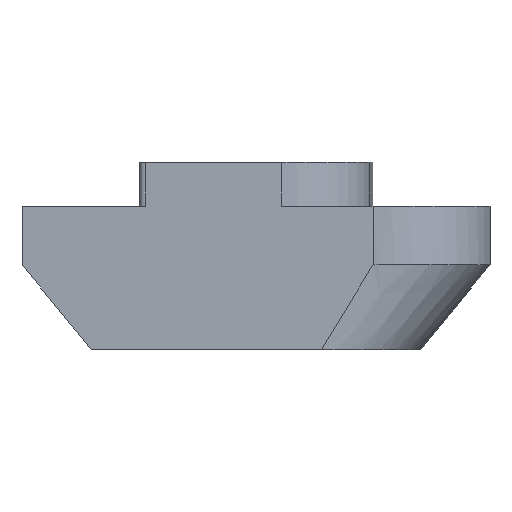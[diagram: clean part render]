
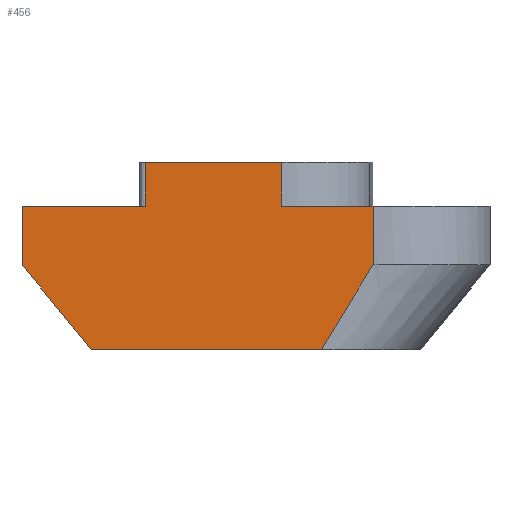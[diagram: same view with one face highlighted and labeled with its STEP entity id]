
A CAD part, front view. The second image highlights one B-rep face of the part: STEP entity #456.
In plain terms, the highlighted planar face has unit normal (0, -1, 0).
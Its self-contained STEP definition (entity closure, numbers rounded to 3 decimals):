
#118=CARTESIAN_POINT('',(-3.795,-3.9,1.5));
#119=VERTEX_POINT('',#118);
#129=CARTESIAN_POINT('',(0.877,-3.9,1.5));
#130=VERTEX_POINT('',#129);
#131=CARTESIAN_POINT('',(0.877,-3.9,1.5));
#132=DIRECTION('',(-1.0,0.0,0.0));
#133=VECTOR('',#132,4.672);
#134=LINE('',#131,#133);
#135=EDGE_CURVE('',#130,#119,#134,.T.);
#197=CARTESIAN_POINT('',(2.239,-3.9,-4.9));
#198=VERTEX_POINT('',#197);
#214=CARTESIAN_POINT('',(-5.633,-3.9,-4.9));
#215=VERTEX_POINT('',#214);
#216=CARTESIAN_POINT('',(-5.633,-3.9,-4.9));
#217=DIRECTION('',(1.0,0.0,0.0));
#218=VECTOR('',#217,7.871);
#219=LINE('',#216,#218);
#220=EDGE_CURVE('',#215,#198,#219,.T.);
#375=CARTESIAN_POINT('',(-8.,-3.9,-2.0));
#376=VERTEX_POINT('',#375);
#377=CARTESIAN_POINT('',(-5.633,-3.9,-4.9));
#378=DIRECTION('',(-0.632,0.0,0.775));
#379=VECTOR('',#378,3.744);
#380=LINE('',#377,#379);
#381=EDGE_CURVE('',#215,#376,#380,.T.);
#393=CARTESIAN_POINT('',(3.803,-3.9,0.0));
#394=DIRECTION('',(0.0,-1.0,0.0));
#395=DIRECTION('',(0.0,0.0,-1.0));
#396=AXIS2_PLACEMENT_3D('',#393,#394,#395);
#397=PLANE('',#396);
#398=ORIENTED_EDGE('',*,*,#220,.T.);
#399=CARTESIAN_POINT('',(4.,-3.9,-2.0));
#400=VERTEX_POINT('',#399);
#401=CARTESIAN_POINT('',(2.239,-3.9,-4.9));
#402=CARTESIAN_POINT('',(2.826,-3.9,-3.933));
#403=CARTESIAN_POINT('',(3.413,-3.9,-2.967));
#404=CARTESIAN_POINT('',(4.,-3.9,-2.0));
#405=B_SPLINE_CURVE_WITH_KNOTS('',3,(#401,#402,#403,#404),.UNSPECIFIED.,.F.,.U.,(4,4),(0.408,1.0),.UNSPECIFIED.);
#406=EDGE_CURVE('',#198,#400,#405,.T.);
#407=ORIENTED_EDGE('',*,*,#406,.T.);
#408=CARTESIAN_POINT('',(4.,-3.9,0.0));
#409=VERTEX_POINT('',#408);
#410=CARTESIAN_POINT('',(4.,-3.9,0.0));
#411=DIRECTION('',(0.0,0.0,-1.0));
#412=VECTOR('',#411,2.0);
#413=LINE('',#410,#412);
#414=EDGE_CURVE('',#409,#400,#413,.T.);
#415=ORIENTED_EDGE('',*,*,#414,.F.);
#416=CARTESIAN_POINT('',(0.877,-3.9,0.0));
#417=VERTEX_POINT('',#416);
#418=CARTESIAN_POINT('',(4.,-3.9,0.0));
#419=DIRECTION('',(-1.0,0.0,0.0));
#420=VECTOR('',#419,3.123);
#421=LINE('',#418,#420);
#422=EDGE_CURVE('',#409,#417,#421,.T.);
#423=ORIENTED_EDGE('',*,*,#422,.T.);
#424=CARTESIAN_POINT('',(0.877,-3.9,1.5));
#425=DIRECTION('',(0.0,0.0,-1.0));
#426=VECTOR('',#425,1.5);
#427=LINE('',#424,#426);
#428=EDGE_CURVE('',#130,#417,#427,.T.);
#429=ORIENTED_EDGE('',*,*,#428,.F.);
#430=ORIENTED_EDGE('',*,*,#135,.T.);
#431=CARTESIAN_POINT('',(-3.795,-3.9,0.0));
#432=VERTEX_POINT('',#431);
#433=CARTESIAN_POINT('',(-3.795,-3.9,0.0));
#434=DIRECTION('',(0.0,0.0,1.0));
#435=VECTOR('',#434,1.5);
#436=LINE('',#433,#435);
#437=EDGE_CURVE('',#432,#119,#436,.T.);
#438=ORIENTED_EDGE('',*,*,#437,.F.);
#439=CARTESIAN_POINT('',(-8.,-3.9,0.0));
#440=VERTEX_POINT('',#439);
#441=CARTESIAN_POINT('',(-3.795,-3.9,0.0));
#442=DIRECTION('',(-1.0,0.0,0.0));
#443=VECTOR('',#442,4.205);
#444=LINE('',#441,#443);
#445=EDGE_CURVE('',#432,#440,#444,.T.);
#446=ORIENTED_EDGE('',*,*,#445,.T.);
#447=CARTESIAN_POINT('',(-8.,-3.9,0.0));
#448=DIRECTION('',(0.0,0.0,-1.0));
#449=VECTOR('',#448,2.0);
#450=LINE('',#447,#449);
#451=EDGE_CURVE('',#440,#376,#450,.T.);
#452=ORIENTED_EDGE('',*,*,#451,.T.);
#453=ORIENTED_EDGE('',*,*,#381,.F.);
#454=EDGE_LOOP('',(#398,#407,#415,#423,#429,#430,#438,#446,#452,#453));
#455=FACE_OUTER_BOUND('',#454,.T.);
#456=ADVANCED_FACE('',(#455),#397,.T.);
